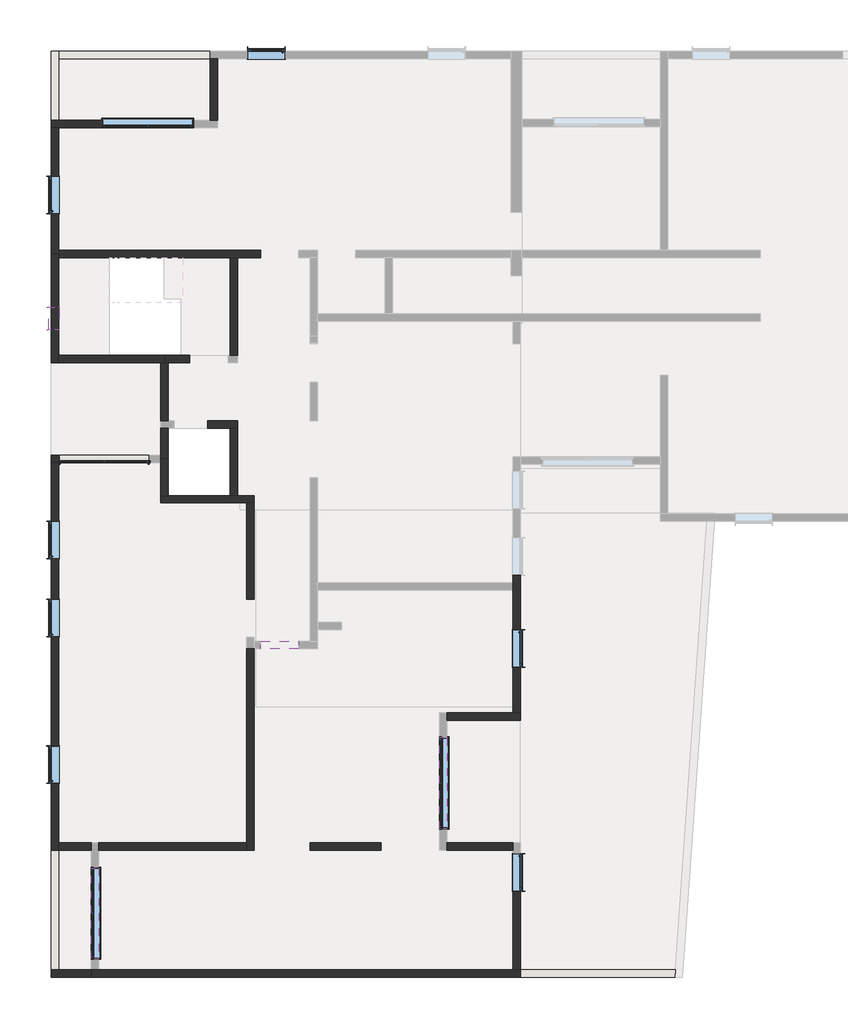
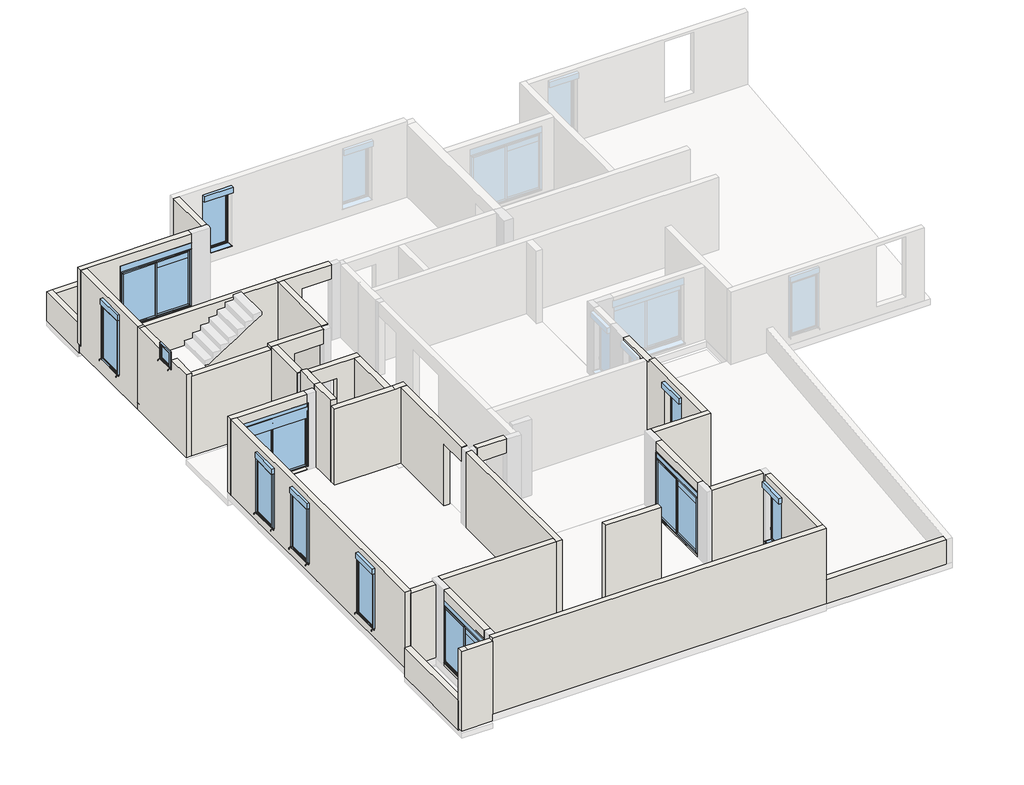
# One storey, part 1 of 3: 37 walls, 12 windows.
"""IFC4 building model written with IfcOpenShell, lengths in millimetres."""

from ifc_helpers import new_model, si_unit, frame, origin, place, context, project, spatial, polyline, outline, extrude, faceted_brep, transform, mapped, element, save
from components import window_b85a0a24, window_200x100_8459d8a5, window_200x100_a15cc3b6, m03_dc1d0546, tunnel_1v_voile_60x60_87597c4a

model = new_model("IFC4")

# Units and contexts
model_context = context("Model", 3, world=origin())
ifc_project = project(units=[si_unit("LENGTHUNIT", "METRE", prefix="MILLI")], contexts=[model_context])

# Site, building, storey
site = spatial("IfcSite", under=ifc_project)
building = spatial("IfcBuilding", under=site)
storey = spatial("IfcBuildingStorey", under=building, Name="03-Plateau 3", Elevation=4400.0)

# Walls
placement = place(None, origin())
element("IfcWall", 1, ObjectType="Voile Banché 20 cm", at=placement, inside=storey, context=model_context, shape_type="Brep", body=[
    faceted_brep([(-2977.0447796, 10679.8622276, 3690.0), (-2977.0447796, 9129.8622276, 3690.0), (-2977.0447796, 9129.8622276, 3760.0), (-2977.0447796, 10679.8622276, 3760.0), (-2777.0447796, 10679.8622276, 3690.0), (-2777.0447796, 10679.8622276, 3760.0), (-2777.0447796, 9129.8622276, 3760.0), (-2777.0447796, 9129.8622276, 3690.0), (-2877.0447796, 10679.8622276, 3690.0)], [[[0, 1, 2, 3]], [[4, 5, 6, 7]], [[1, 0, 8, 4, 7]], [[2, 1, 7, 6]], [[0, 3, 5, 4, 8]], [[3, 2, 6, 5]]]),
])
element("IfcWall", 2, ObjectType="Voile Banché 20 cm", at=placement, inside=storey, context=model_context, shape_type="Brep", body=[
    faceted_brep([(-6107.0447796, 13579.8622276, 3760.0), (-6107.0447796, 10679.8622276, 3760.0), (-6107.0447796, 10679.8622276, 6590.0), (-6107.0447796, 10679.8622276, 6770.0), (-6107.0447796, 11554.8622276, 6770.0), (-6107.0447796, 11554.8622276, 6480.0), (-6107.0447796, 12154.8622276, 6480.0), (-6107.0447796, 12154.8622276, 6770.0), (-6107.0447796, 13479.8622276, 6770.0), (-6107.0447796, 13579.8622276, 6770.0), (-5907.0447796, 10679.8622276, 3760.0), (-5907.0447796, 10879.8622276, 3760.0), (-5907.0447796, 13579.8622276, 3760.0), (-5907.0447796, 13579.8622276, 6770.0), (-5907.0447796, 13479.8622276, 6770.0), (-5907.0447796, 12154.8622276, 6770.0), (-5907.0447796, 12154.8622276, 6480.0), (-5907.0447796, 11554.8622276, 6480.0), (-5907.0447796, 11554.8622276, 6770.0), (-5907.0447796, 10679.8622276, 6770.0), (-5907.0447796, 10679.8622276, 6660.0), (-5907.0447796, 10679.8622276, 6590.0)], [[[0, 1, 2, 3, 4, 5, 6, 7, 8, 9]], [[10, 11, 12, 13, 14, 15, 16, 17, 18, 19, 20, 21]], [[1, 0, 12, 11, 10]], [[3, 19, 18, 4]], [[14, 8, 7, 15]], [[9, 8, 14, 13]], [[3, 2, 1, 10, 21, 20, 19]], [[6, 16, 15, 7]], [[17, 5, 4, 18]], [[16, 6, 5, 17]], [[12, 0, 9, 13]]]),
])
element("IfcWall", 3, ObjectType="Voile Banché 20 cm", at=placement, inside=storey, context=model_context, shape_type="Brep", body=[
    faceted_brep([(-5907.0447796, 10679.8622276, 3760.0), (-3077.0447796, 10679.8622276, 3760.0), (-3077.0447796, 10679.8622276, 4010.0), (-3077.0447796, 10679.8622276, 6660.0), (-3177.0447796, 10679.8622276, 6660.0), (-5907.0447796, 10679.8622276, 6660.0), (-5907.0447796, 10879.8622276, 3760.0), (-5907.0447796, 10879.8622276, 6660.0), (-3177.0447796, 10879.8622276, 6660.0), (-3077.0447796, 10879.8622276, 6660.0), (-3077.0447796, 10879.8622276, 4010.0), (-3077.0447796, 10879.8622276, 3760.0)], [[[0, 1, 2, 3, 4, 5]], [[6, 7, 8, 9, 10, 11]], [[1, 0, 6, 11]], [[3, 2, 1, 11, 10, 9]], [[4, 3, 9, 8]], [[5, 4, 8, 7]], [[0, 5, 7, 6]]]),
])
element("IfcWall", 4, ObjectType="Voile Banché 20 cm", at=placement, inside=storey, context=model_context, shape_type="Brep", body=[
    faceted_brep([(-1377.0447796, 10679.8622276, 6770.0), (-2977.0447796, 10679.8622276, 6770.0), (-3177.0447796, 10679.8622276, 6770.0), (-3177.0447796, 10679.8622276, 6660.0), (-3077.0447796, 10679.8622276, 6660.0), (-3077.0447796, 10679.8622276, 4010.0), (-2977.0447796, 10679.8622276, 4010.0), (-2397.0447796, 10679.8622276, 4010.0), (-2397.0447796, 10679.8622276, 6250.0), (-1377.0447796, 10679.8622276, 6250.0), (-1377.0447796, 10679.8622276, 6740.0), (-3177.0447796, 10879.8622276, 6770.0), (-1377.0447796, 10879.8622276, 6770.0), (-1377.0447796, 10879.8622276, 6740.0), (-1377.0447796, 10879.8622276, 6250.0), (-2397.0447796, 10879.8622276, 6250.0), (-2397.0447796, 10879.8622276, 4010.0), (-3077.0447796, 10879.8622276, 4010.0), (-3077.0447796, 10879.8622276, 6660.0), (-3177.0447796, 10879.8622276, 6660.0), (-3177.0447796, 10779.8622276, 6660.0)], [[[0, 1, 2, 3, 4, 5, 6, 7, 8, 9, 10]], [[11, 12, 13, 14, 15, 16, 17, 18, 19]], [[5, 17, 16, 7, 6]], [[12, 0, 10, 9, 14, 13]], [[2, 1, 0, 12, 11]], [[8, 15, 14, 9]], [[15, 8, 7, 16]], [[5, 4, 18, 17]], [[3, 20, 19, 18, 4]], [[3, 2, 11, 19, 20]]]),
])
element("IfcWall", 5, ObjectType="Voile Banché 20 cm", at=placement, inside=storey, context=model_context, shape_type="Brep", body=[
    faceted_brep([(-3177.0447796, 10679.8622276, 6770.0), (-3177.0447796, 10679.8622276, 6660.0), (-3177.0447796, 10679.8622276, 4010.0), (-3177.0447796, 9129.8622276, 4010.0), (-3177.0447796, 9129.8622276, 6740.0), (-3177.0447796, 9129.8622276, 6770.0), (-2977.0447796, 10679.8622276, 4010.0), (-2977.0447796, 10679.8622276, 6770.0), (-2977.0447796, 9129.8622276, 6770.0), (-2977.0447796, 9129.8622276, 4010.0), (-3077.0447796, 10679.8622276, 4010.0)], [[[0, 1, 2, 3, 4, 5]], [[6, 7, 8, 9]], [[3, 2, 10, 6, 9]], [[5, 4, 3, 9, 8]], [[0, 5, 8, 7]], [[0, 7, 6, 10, 2, 1]]]),
])
element("IfcWall", 6, ObjectType="Voile Banché 20 cm", at=placement, inside=storey, context=model_context, shape_type="Brep", body=[
    faceted_brep([(-1127.0447796, 8929.8622276, 4010.0), (-1127.0447796, 8929.8622276, 6770.0), (-1327.0447796, 8929.8622276, 6770.0), (-2817.0447796, 8929.8622276, 6770.0), (-2817.0447796, 8929.8622276, 6740.0), (-2817.0447796, 8929.8622276, 6250.0), (-1917.0447796, 8929.8622276, 6250.0), (-1917.0447796, 8929.8622276, 4010.0), (-1327.0447796, 8929.8622276, 4010.0), (-1127.0447796, 9129.8622276, 6770.0), (-1127.0447796, 9129.8622276, 4010.0), (-1917.0447796, 9129.8622276, 4010.0), (-1917.0447796, 9129.8622276, 6250.0), (-2817.0447796, 9129.8622276, 6250.0), (-2817.0447796, 9129.8622276, 6740.0), (-2817.0447796, 9129.8622276, 6770.0)], [[[0, 1, 2, 3, 4, 5, 6, 7, 8]], [[9, 10, 11, 12, 13, 14, 15]], [[10, 0, 8, 7, 11]], [[3, 2, 1, 9, 15]], [[3, 15, 14, 13, 5, 4]], [[1, 0, 10, 9]], [[12, 6, 5, 13]], [[6, 12, 11, 7]]]),
])
element("IfcWall", 7, ObjectType="Voile Banché 20 cm", at=placement, inside=storey, context=model_context, shape_type="SweptSolid", body=[
    extrude(outline(polyline([(-1327.0447796, 7129.8622276), (-1327.0447796, 8929.8622276), (-1127.0447796, 8929.8622276), (-1127.0447796, 7129.8622276), (-1327.0447796, 7129.8622276)])), frame((0.0, 0.0, 4010.0), z_axis=(0.0, 0.0, 1.0), x_axis=(1.0, 0.0, 0.0)), (0.0, 0.0, 1.0), 2760.0),
])
element("IfcWall", 8, ObjectType="Voile Banché 20 cm", at=placement, inside=storey, context=model_context, shape_type="Brep", body=[
    faceted_brep([(-687.0447796, 7129.8622276, 4010.0), (-1127.0447796, 7129.8622276, 4010.0), (-1327.0447796, 7129.8622276, 4010.0), (-2977.0447796, 7129.8622276, 4010.0), (-3177.0447796, 7129.8622276, 4010.0), (-3177.0447796, 7129.8622276, 6770.0), (-1327.0447796, 7129.8622276, 6770.0), (-1127.0447796, 7129.8622276, 6770.0), (-1072.0447796, 7129.8622276, 6770.0), (-687.0447796, 7129.8622276, 6770.0), (-687.0447796, 6929.8622276, 4010.0), (-687.0447796, 6929.8622276, 6770.0), (-887.0447796, 6929.8622276, 6770.0), (-1072.0447796, 6929.8622276, 6770.0), (-3177.0447796, 6929.8622276, 6770.0), (-3177.0447796, 6929.8622276, 4010.0), (-887.0447796, 6929.8622276, 4010.0)], [[[0, 1, 2, 3, 4, 5, 6, 7, 8, 9]], [[10, 11, 12, 13, 14, 15, 16]], [[4, 3, 2, 1, 0, 10, 16, 15]], [[5, 4, 15, 14]], [[0, 9, 11, 10]], [[9, 8, 13, 12, 11]], [[8, 7, 6, 5, 14, 13]]]),
])
element("IfcWall", 9, ObjectType="Voile Banché 20 cm", at=placement, inside=storey, context=model_context, shape_type="Brep", body=[
    faceted_brep([(-2977.0447796, 7129.8622276, 4010.0), (-2977.0447796, 8109.8622276, 4010.0), (-2977.0447796, 8109.8622276, 6970.0), (-2977.0447796, 7129.8622276, 6970.0), (-2977.0447796, 7129.8622276, 6770.0), (-3177.0447796, 8109.8622276, 4010.0), (-3177.0447796, 8009.8622276, 4010.0), (-3177.0447796, 7129.8622276, 4010.0), (-3177.0447796, 7129.8622276, 6770.0), (-3177.0447796, 7129.8622276, 6970.0), (-3177.0447796, 8109.8622276, 6970.0), (-3177.0447796, 8109.8622276, 6770.0)], [[[0, 1, 2, 3, 4]], [[5, 6, 7, 8, 9, 10, 11]], [[1, 0, 7, 6, 5]], [[2, 1, 5, 11, 10]], [[3, 2, 10, 9]], [[3, 9, 8, 7, 0, 4]]]),
])
element("IfcWall", 10, ObjectType="Voile Banché 20 cm", at=placement, inside=storey, context=model_context, shape_type="Brep", body=[
    faceted_brep([(-2977.0447796, 8109.8622276, 4010.0), (-2977.0447796, 8929.8622276, 4010.0), (-2977.0447796, 8929.8622276, 6970.0), (-2977.0447796, 8109.8622276, 6970.0), (-3177.0447796, 8109.8622276, 4010.0), (-3177.0447796, 8109.8622276, 6970.0), (-3177.0447796, 8929.8622276, 6970.0), (-3177.0447796, 8929.8622276, 6740.0), (-3177.0447796, 8929.8622276, 4010.0), (-3177.0447796, 8209.8622276, 4010.0)], [[[0, 1, 2, 3]], [[4, 5, 6, 7, 8, 9]], [[1, 0, 4, 9, 8]], [[2, 1, 8, 7, 6]], [[3, 2, 6, 5]], [[0, 3, 5, 4]]]),
])
element("IfcWall", 11, ObjectType="Voile Banché 20 cm", at=placement, inside=storey, context=model_context, shape_type="Brep", body=[
    faceted_brep([(-6107.0447796, 8009.8622276, 4010.0), (-6107.0447796, -2340.1377724, 4010.0), (-6107.0447796, -2340.1377724, 4750.0), (-6107.0447796, -2340.1377724, 6590.0), (-6107.0447796, -2340.1377724, 6770.0), (-6107.0447796, 8009.8622276, 6770.0), (-6107.0447796, 8009.8622276, 4022.7706813), (-6107.0447796, -560.1377724, 6550.0), (-6107.0447796, -560.1377724, 4350.0), (-6107.0447796, 439.8622276, 4350.0), (-6107.0447796, 439.8622276, 6550.0), (-6107.0447796, 5439.8622276, 6550.0), (-6107.0447796, 5439.8622276, 4350.0), (-6107.0447796, 6439.8622276, 4350.0), (-6107.0447796, 6439.8622276, 6550.0), (-6107.0447796, 3359.8622276, 6550.0), (-6107.0447796, 3359.8622276, 4350.0), (-6107.0447796, 4359.8622276, 4350.0), (-6107.0447796, 4359.8622276, 6550.0), (-5907.0447796, -2340.1377724, 4010.0), (-5907.0447796, -2140.1377724, 4010.0), (-5907.0447796, 8009.8622276, 4010.0), (-5907.0447796, 8009.8622276, 6770.0), (-5907.0447796, -2340.1377724, 6770.0), (-5907.0447796, -2340.1377724, 6660.0), (-5907.0447796, -2340.1377724, 6590.0), (-5907.0447796, -2340.1377724, 4750.0), (-5907.0447796, -560.1377724, 4350.0), (-5907.0447796, -560.1377724, 6550.0), (-5907.0447796, 439.8622276, 6550.0), (-5907.0447796, 439.8622276, 4350.0), (-5907.0447796, 5439.8622276, 4350.0), (-5907.0447796, 5439.8622276, 6550.0), (-5907.0447796, 6439.8622276, 6550.0), (-5907.0447796, 6439.8622276, 4350.0), (-5907.0447796, 3359.8622276, 4350.0), (-5907.0447796, 3359.8622276, 6550.0), (-5907.0447796, 4359.8622276, 6550.0), (-5907.0447796, 4359.8622276, 4350.0)], [[[0, 1, 2, 3, 4, 5, 6], [7, 8, 9, 10], [11, 12, 13, 14], [15, 16, 17, 18]], [[19, 20, 21, 22, 23, 24, 25, 26], [27, 28, 29, 30], [31, 32, 33, 34], [35, 36, 37, 38]], [[1, 0, 21, 20, 19]], [[1, 19, 26, 25, 24, 23, 4, 3, 2]], [[5, 4, 23, 22]], [[0, 6, 5, 22, 21]], [[27, 8, 7, 28]], [[28, 7, 10, 29]], [[29, 10, 9, 30]], [[8, 27, 30, 9]], [[31, 12, 11, 32]], [[32, 11, 14, 33]], [[33, 14, 13, 34]], [[12, 31, 34, 13]], [[35, 16, 15, 36]], [[36, 15, 18, 37]], [[37, 18, 17, 38]], [[16, 35, 38, 17]]]),
])
element("IfcWall", 12, ObjectType="Voile Banché 20 cm", at=placement, inside=storey, context=model_context, shape_type="Brep", body=[
    faceted_brep([(-5037.0447796, -5740.1377724, 4010.0), (6432.9552204, -5740.1377724, 4010.0), (6432.9552204, -5740.1377724, 4890.0), (6432.9552204, -5740.1377724, 6770.0), (-5037.0447796, -5740.1377724, 6770.0), (-5037.0447796, -5740.1377724, 6660.0), (-5037.0447796, -5540.1377724, 4010.0), (-5037.0447796, -5540.1377724, 6660.0), (-5037.0447796, -5540.1377724, 6770.0), (-4837.0447796, -5540.1377724, 6770.0), (6232.9552204, -5540.1377724, 6770.0), (6432.9552204, -5540.1377724, 6770.0), (6432.9552204, -5540.1377724, 4890.0), (6432.9552204, -5540.1377724, 4010.0), (6232.9552204, -5540.1377724, 4010.0), (-4837.0447796, -5540.1377724, 4010.0)], [[[0, 1, 2, 3, 4, 5]], [[6, 7, 8, 9, 10, 11, 12, 13, 14, 15]], [[1, 0, 6, 15, 14, 13]], [[0, 5, 4, 8, 7, 6]], [[1, 13, 12, 11, 3, 2]], [[4, 3, 11, 10, 9, 8]]]),
])
element("IfcWall", 13, ObjectType="Voile Banché 20 cm", at=placement, inside=storey, context=model_context, shape_type="Brep", body=[
    faceted_brep([(-887.0447796, 3039.8622276, 4010.0), (-887.0447796, -2140.1377724, 4010.0), (-887.0447796, -2340.1377724, 4010.0), (-887.0447796, -2340.1377724, 6770.0), (-887.0447796, -2140.1377724, 6770.0), (-887.0447796, 3039.8622276, 6770.0), (-887.0447796, 3039.8622276, 6740.0), (-687.0447796, 3039.8622276, 4010.0), (-687.0447796, 3039.8622276, 6740.0), (-687.0447796, 3039.8622276, 6770.0), (-687.0447796, -2340.1377724, 6770.0), (-687.0447796, -2340.1377724, 4010.0)], [[[0, 1, 2, 3, 4, 5, 6]], [[7, 8, 9, 10, 11]], [[2, 1, 0, 7, 11]], [[0, 6, 5, 9, 8, 7]], [[3, 2, 11, 10]], [[5, 4, 3, 10, 9]]]),
])
element("IfcWall", 14, ObjectType="Voile Banché 20 cm", at=placement, inside=storey, context=model_context, shape_type="Brep", body=[
    faceted_brep([(-887.0447796, 3339.8622276, 6770.0), (-887.0447796, 6929.8622276, 6770.0), (-887.0447796, 6929.8622276, 4010.0), (-887.0447796, 4359.8622276, 4010.0), (-887.0447796, 4359.8622276, 6250.0), (-887.0447796, 3339.8622276, 6250.0), (-887.0447796, 3339.8622276, 6740.0), (-687.0447796, 6929.8622276, 6770.0), (-687.0447796, 3339.8622276, 6770.0), (-687.0447796, 3339.8622276, 6740.0), (-687.0447796, 3339.8622276, 6250.0), (-687.0447796, 4359.8622276, 6250.0), (-687.0447796, 4359.8622276, 4010.0), (-687.0447796, 6929.8622276, 4010.0)], [[[0, 1, 2, 3, 4, 5, 6]], [[7, 8, 9, 10, 11, 12, 13]], [[2, 13, 12, 3]], [[8, 0, 6, 5, 10, 9]], [[1, 0, 8, 7]], [[2, 1, 7, 13]], [[4, 11, 10, 5]], [[11, 4, 3, 12]]]),
])
element("IfcWall", 15, ObjectType="Voile Banché 20 cm", at=placement, inside=storey, context=model_context, shape_type="Brep", body=[
    faceted_brep([(-512.0447796, 3039.8622276, 6250.0), (507.9552204, 3039.8622276, 6250.0), (507.9552204, 3039.8622276, 6740.0), (507.9552204, 3039.8622276, 6770.0), (-512.0447796, 3039.8622276, 6770.0), (-512.0447796, 3039.8622276, 6740.0), (-512.0447796, 3239.8622276, 6250.0), (-512.0447796, 3239.8622276, 6740.0), (-512.0447796, 3239.8622276, 6770.0), (507.9552204, 3239.8622276, 6770.0), (507.9552204, 3239.8622276, 6740.0), (507.9552204, 3239.8622276, 6250.0)], [[[0, 1, 2, 3, 4, 5]], [[6, 7, 8, 9, 10, 11]], [[1, 0, 6, 11]], [[3, 2, 1, 11, 10, 9]], [[4, 3, 9, 8]], [[0, 5, 4, 8, 7, 6]]]),
])
element("IfcWall", 16, ObjectType="Voile Banché 20 cm", at=placement, inside=storey, context=model_context, shape_type="Brep", body=[
    faceted_brep([(-1127.0447796, 10879.8622276, 4010.0), (-1127.0447796, 13479.8622276, 4010.0), (-1127.0447796, 13479.8622276, 6770.0), (-1127.0447796, 10879.8622276, 6770.0), (-1127.0447796, 10879.8622276, 6740.0), (-1327.0447796, 10879.8622276, 4010.0), (-1327.0447796, 10879.8622276, 6770.0), (-1327.0447796, 13479.8622276, 6770.0), (-1327.0447796, 13479.8622276, 4010.0)], [[[0, 1, 2, 3, 4]], [[5, 6, 7, 8]], [[1, 0, 5, 8]], [[3, 2, 7, 6]], [[0, 4, 3, 6, 5]], [[2, 1, 8, 7]]]),
])
element("IfcWall", 17, ObjectType="Voile Banché 20 cm", at=placement, inside=storey, context=model_context, shape_type="Brep", body=[
    faceted_brep([(-6107.0447796, -5740.1377724, 3770.0), (-5037.0447796, -5740.1377724, 3770.0), (-5037.0447796, -5740.1377724, 4010.0), (-5037.0447796, -5740.1377724, 6660.0), (-5907.0447796, -5740.1377724, 6660.0), (-6107.0447796, -5740.1377724, 6660.0), (-6107.0447796, -5540.1377724, 3770.0), (-6107.0447796, -5540.1377724, 4750.0), (-6107.0447796, -5540.1377724, 6660.0), (-5907.0447796, -5540.1377724, 6660.0), (-5037.0447796, -5540.1377724, 6660.0), (-5037.0447796, -5540.1377724, 4010.0), (-5037.0447796, -5540.1377724, 3770.0)], [[[0, 1, 2, 3, 4, 5]], [[6, 7, 8, 9, 10, 11, 12]], [[1, 0, 6, 12]], [[3, 2, 1, 12, 11, 10]], [[0, 5, 8, 7, 6]], [[5, 4, 9, 8]], [[4, 3, 10, 9]]]),
])
element("IfcWall", 18, ObjectType="Voile Banché 20 cm", at=placement, inside=storey, context=model_context, shape_type="SweptSolid", body=[
    extrude(outline(polyline([(2712.9552204, -2340.1377724), (812.9552204, -2340.1377724), (812.9552204, -2140.1377724), (2712.9552204, -2140.1377724), (2712.9552204, -2340.1377724)])), frame((0.0, 0.0, 4010.0), z_axis=(0.0, 0.0, 1.0), x_axis=(1.0, 0.0, 0.0)), (0.0, 0.0, 1.0), 2760.0),
])
element("IfcWall", 19, ObjectType="Voile Banché 20 cm", at=placement, inside=storey, context=model_context, shape_type="Brep", body=[
    faceted_brep([(4478.3552204, -2340.1377724, 4010.0), (6232.9552204, -2340.1377724, 4010.0), (6233.3552204, -2340.1377724, 4010.0), (6233.3552204, -2340.1377724, 6770.0), (6232.9552204, -2340.1377724, 6770.0), (4478.3552204, -2340.1377724, 6770.0), (4478.3552204, -2340.1377724, 4080.0), (4478.3552204, -2140.1377724, 4010.0), (4478.3552204, -2140.1377724, 6770.0), (6233.3552204, -2140.1377724, 6770.0), (6233.3552204, -2140.1377724, 4010.0)], [[[0, 1, 2, 3, 4, 5, 6]], [[7, 8, 9, 10]], [[2, 1, 0, 7, 10]], [[3, 2, 10, 9]], [[0, 6, 5, 8, 7]], [[5, 4, 3, 9, 8]]]),
])
element("IfcWall", 20, ObjectType="Voile Banché 20 cm", at=placement, inside=storey, context=model_context, shape_type="Brep", body=[
    faceted_brep([(4478.3552204, 1129.8622276, 4010.0), (6432.9552204, 1129.8622276, 4010.0), (6432.9552204, 1129.8622276, 6770.0), (4478.3552204, 1129.8622276, 6770.0), (4478.3552204, 1329.8622276, 4010.0), (4478.3552204, 1329.8622276, 4080.0), (4478.3552204, 1329.8622276, 6770.0), (6232.9552204, 1329.8622276, 6770.0), (6432.9552204, 1329.8622276, 6770.0), (6432.9552204, 1329.8622276, 4010.0), (6232.9552204, 1329.8622276, 4010.0)], [[[0, 1, 2, 3]], [[4, 5, 6, 7, 8, 9, 10]], [[1, 0, 4, 10, 9]], [[0, 3, 6, 5, 4]], [[2, 1, 9, 8]], [[3, 2, 8, 7, 6]]]),
])
element("IfcWall", 21, ObjectType="Acrotère BA 20 cm", at=placement, inside=storey, context=model_context, shape_type="Brep", body=[
    faceted_brep([(-5907.0447796, 17049.8622276, 3690.0), (-5907.0447796, 18799.8622276, 3690.0), (-5907.0447796, 18999.8622276, 3690.0), (-5907.0447796, 18999.8622276, 4750.0), (-5907.0447796, 18799.8622276, 4750.0), (-5907.0447796, 17149.8622276, 4750.0), (-5907.0447796, 17149.8622276, 4010.0), (-5907.0447796, 17049.8622276, 4010.0), (-5907.0447796, 17049.8622276, 3760.0), (-6107.0447796, 17049.8622276, 3690.0), (-6107.0447796, 17049.8622276, 3760.0), (-6107.0447796, 17049.8622276, 4010.0), (-6107.0447796, 17149.8622276, 4010.0), (-6107.0447796, 17149.8622276, 4750.0), (-6107.0447796, 18999.8622276, 4750.0), (-6107.0447796, 18999.8622276, 3690.0)], [[[0, 1, 2, 3, 4, 5, 6, 7, 8]], [[9, 10, 11, 12, 13, 14, 15]], [[2, 1, 0, 9, 15]], [[5, 4, 3, 14, 13]], [[3, 2, 15, 14]], [[0, 8, 7, 11, 10, 9]], [[6, 12, 11, 7]], [[6, 5, 13, 12]]]),
])
element("IfcWall", 22, ObjectType="Acrotère BA 20 cm", at=placement, inside=storey, context=model_context, shape_type="Brep", body=[
    faceted_brep([(-5907.0447796, 18799.8622276, 3690.0), (-1857.0447796, 18799.8622276, 3690.0), (-1857.0447796, 18799.8622276, 4010.0), (-1857.0447796, 18799.8622276, 4750.0), (-5907.0447796, 18799.8622276, 4750.0), (-5907.0447796, 18999.8622276, 3690.0), (-5907.0447796, 18999.8622276, 4750.0), (-1857.0447796, 18999.8622276, 4750.0), (-1857.0447796, 18999.8622276, 4010.0), (-1857.0447796, 18999.8622276, 3760.0), (-1857.0447796, 18999.8622276, 3690.0)], [[[0, 1, 2, 3, 4]], [[5, 6, 7, 8, 9, 10]], [[1, 0, 5, 10]], [[4, 3, 7, 6]], [[0, 4, 6, 5]], [[3, 2, 1, 10, 9, 8, 7]]]),
])
element("IfcWall", 23, ObjectType="Acrotère BA 20 cm", at=placement, inside=storey, context=model_context, shape_type="Brep", body=[
    faceted_brep([(-5907.0447796, -5540.1377724, 3690.0), (-5907.0447796, -2340.1377724, 3690.0), (-5907.0447796, -2340.1377724, 4010.0), (-5907.0447796, -2340.1377724, 4750.0), (-5907.0447796, -5540.1377724, 4750.0), (-6107.0447796, -5540.1377724, 3690.0), (-6107.0447796, -5540.1377724, 3770.0), (-6107.0447796, -5540.1377724, 4750.0), (-6107.0447796, -2340.1377724, 4750.0), (-6107.0447796, -2340.1377724, 4010.0), (-6107.0447796, -2340.1377724, 3690.0)], [[[0, 1, 2, 3, 4]], [[5, 6, 7, 8, 9, 10]], [[1, 0, 5, 10]], [[4, 3, 8, 7]], [[3, 2, 1, 10, 9, 8]], [[0, 4, 7, 6, 5]]]),
])
element("IfcWall", 24, ObjectType="Acrotère BA 20 cm", at=placement, inside=storey, context=model_context, shape_type="SweptSolid", body=[
    extrude(outline(polyline([(10566.4383237, -5740.1377724), (6432.9552204, -5740.1377724), (6432.9552204, -5540.1377724), (10580.423686, -5540.1377724), (10566.4383237, -5740.1377724)])), frame((0.0, 0.0, 4010.0), z_axis=(0.0, 0.0, 1.0), x_axis=(1.0, 0.0, 0.0)), (0.0, 0.0, 1.0), 880.0),
])
element("IfcWall", 25, ObjectType="Voile Banché 20 cm", at=placement, inside=storey, context=model_context, shape_type="Brep", body=[
    faceted_brep([(-6107.0447796, 8009.8622276, 4022.7706813), (-3487.0447796, 8009.8622276, 4022.7706813), (-3487.0447796, 8009.8622276, 4050.0), (-5887.0447796, 8009.8622276, 4050.0), (-5887.0447796, 8009.8622276, 4100.0), (-5887.0447796, 8009.8622276, 4150.0), (-5917.0447796, 8009.8622276, 4150.0), (-5917.0447796, 8009.8622276, 6230.0), (-5917.0447796, 8009.8622276, 6450.0), (-3487.0447796, 8009.8622276, 6450.0), (-3487.0447796, 8009.8622276, 6770.0), (-5907.0447796, 8009.8622276, 6770.0), (-6107.0447796, 8009.8622276, 6770.0), (-3487.0447796, 8209.8622276, 4022.7706813), (-5907.0447796, 8209.8622276, 4022.7706813), (-6107.0447796, 8209.8622276, 4022.7706813), (-6107.0447796, 8209.8622276, 4050.0), (-6107.0447796, 8209.8622276, 6770.0), (-3487.0447796, 8209.8622276, 6770.0), (-3487.0447796, 8209.8622276, 6450.0), (-5917.0447796, 8209.8622276, 6450.0), (-5917.0447796, 8209.8622276, 6200.0), (-5887.0447796, 8209.8622276, 6200.0), (-5887.0447796, 8209.8622276, 4050.0), (-3487.0447796, 8209.8622276, 4050.0), (-6107.0447796, 8109.8622276, 4022.7706813), (-5887.0447796, 8059.8622276, 6200.0), (-5917.0447796, 8059.8622276, 6200.0), (-5917.0447796, 8059.8622276, 4150.0), (-5897.0447796, 8059.8622276, 4150.0), (-5887.0447796, 8059.8622276, 4150.0)], [[[0, 1, 2, 3, 4, 5, 6, 7, 8, 9, 10, 11, 12]], [[13, 14, 15, 16, 17, 18, 19, 20, 21, 22, 23, 24]], [[1, 0, 25, 15, 14, 13]], [[1, 13, 24, 2]], [[18, 10, 9, 19]], [[0, 12, 17, 16, 15, 25]], [[12, 11, 10, 18, 17]], [[26, 27, 28, 29, 30]], [[28, 27, 21, 20, 8, 7, 6]], [[29, 28, 6, 5, 30]], [[23, 3, 2, 24]], [[26, 30, 5, 4, 3, 23, 22]], [[8, 20, 19, 9]], [[27, 26, 22, 21]]]),
])
element("IfcWall", 26, ObjectType="Acrotère BA 20 cm", at=placement, inside=storey, context=model_context, shape_type="Brep", body=[
    faceted_brep([(-5037.0447796, -2820.1377724, 4010.0), (-5037.0447796, -5240.1377724, 4010.0), (-5037.0447796, -5240.1377724, 4120.0), (-5037.0447796, -2820.1377724, 4120.0), (-4837.0447796, -5240.1377724, 4010.0), (-4837.0447796, -2820.1377724, 4010.0), (-4837.0447796, -2820.1377724, 4050.0), (-4837.0447796, -5240.1377724, 4050.0), (-4967.0447796, -5240.1377724, 4050.0), (-4967.0447796, -2820.1377724, 4050.0), (-4977.0447796, -5230.1377724, 4050.0), (-4977.0447796, -2830.1377724, 4050.0), (-4977.0447796, -2830.1377724, 4060.0), (-4977.0447796, -5230.1377724, 4060.0), (-4967.0447796, -2830.1377724, 4050.0), (-4967.0447796, -5230.1377724, 4050.0)], [[[0, 1, 2, 3]], [[4, 5, 6, 7]], [[1, 0, 5, 4]], [[1, 4, 7, 8, 2]], [[5, 0, 3, 9, 6]], [[10, 11, 12, 13]], [[12, 11, 14]], [[11, 10, 15, 8, 7, 6, 9, 14]], [[10, 13, 15]], [[13, 12, 14, 9, 3, 2, 8, 15]]]),
    faceted_brep([(-4837.0447796, -2820.1377724, 4105.0695702), (-4837.0447796, -2820.1377724, 6200.0), (-4837.0447796, -2830.1377724, 6200.0), (-4837.0447796, -2830.1377724, 4105.0695702), (-4977.0447796, -2820.1377724, 4119.2643667), (-4977.0447796, -2820.1377724, 4150.0), (-4977.0447796, -2820.1377724, 6200.0), (-4977.0447796, -2830.1377724, 6200.0), (-4977.0447796, -2830.1377724, 4119.2643667)], [[[0, 1, 2, 3]], [[1, 0, 4, 5, 6]], [[2, 7, 8, 3]], [[8, 7, 6, 5, 4]], [[3, 8, 4, 0]], [[7, 2, 1, 6]]]),
    faceted_brep([(-4837.0447796, -5240.1377724, 6200.0), (-4837.0447796, -5240.1377724, 4105.0695702), (-4837.0447796, -5230.1377724, 4105.0695702), (-4837.0447796, -5230.1377724, 6200.0), (-4977.0447796, -5240.1377724, 6200.0), (-4977.0447796, -5240.1377724, 4150.0), (-4977.0447796, -5240.1377724, 4119.2643667), (-4977.0447796, -5230.1377724, 4119.2643667), (-4977.0447796, -5230.1377724, 6200.0)], [[[0, 1, 2, 3]], [[1, 0, 4, 5, 6]], [[7, 8, 3, 2]], [[8, 7, 6, 5, 4]], [[7, 2, 1, 6]], [[3, 8, 4, 0]]]),
])
element("IfcWall", 27, ObjectType="Acrotère BA 20 cm", at=placement, inside=storey, context=model_context, shape_type="Brep", body=[
    faceted_brep([(4278.3552204, 649.8622276, 4080.0), (4278.3552204, -1770.1377724, 4080.0), (4278.3552204, -1770.1377724, 4120.0), (4278.3552204, 649.8622276, 4120.0), (4318.3552204, 649.8622276, 4080.0), (4318.3552204, -1770.1377724, 4080.0)], [[[0, 1, 2, 3]], [[1, 0, 4, 5]], [[2, 1, 5]], [[0, 3, 4]], [[3, 2, 5, 4]]]),
    faceted_brep([(4478.3552204, -1770.1377724, 6200.0), (4478.3552204, -1770.1377724, 4105.0695702), (4478.3552204, -1749.2468255, 4105.0695702), (4478.3552204, -1749.2468255, 6200.0), (4338.3552204, -1770.1377724, 6200.0), (4338.3552204, -1770.1377724, 6210.0), (4328.3552204, -1770.1377724, 6210.0), (4328.3552204, -1770.1377724, 4150.0), (4338.3552204, -1770.1377724, 4150.0), (4338.3552204, -1770.1377724, 4119.2643667), (4328.3552204, -1759.2468255, 6210.0), (4328.3552204, -1759.2468255, 4150.0), (4338.3552204, -1749.2468255, 4119.2643667), (4338.3552204, -1749.2468255, 6200.0), (4338.3552204, -1759.2468255, 4150.0), (4338.3552204, -1759.2468255, 6200.0), (4338.3552204, -1759.2468255, 6210.0)], [[[0, 1, 2, 3]], [[1, 0, 4, 5, 6, 7, 8, 9]], [[10, 11, 7, 6]], [[12, 13, 3, 2]], [[13, 12, 9, 8, 14, 15]], [[11, 10, 16, 15, 14]], [[12, 2, 1, 9]], [[11, 14, 8, 7]], [[16, 10, 6, 5]], [[15, 16, 5, 4]], [[3, 13, 15, 4, 0]]]),
])
element("IfcWall", 28, ObjectType="Poutre voile 20cm", at=placement, inside=storey, context=model_context, shape_type="Brep", body=[
    faceted_brep([(-887.0447796, -2140.1377724, 3510.0), (-1072.0447796, -2140.1377724, 3510.0), (-4837.0447796, -2140.1377724, 3510.0), (-4837.0447796, -2140.1377724, 3760.0), (-1072.0447796, -2140.1377724, 3760.0), (-887.0447796, -2140.1377724, 3760.0), (-4837.0447796, -2340.1377724, 3510.0), (-1072.0447796, -2340.1377724, 3510.0), (-887.0447796, -2340.1377724, 3510.0), (-887.0447796, -2340.1377724, 3760.0), (-1072.0447796, -2340.1377724, 3760.0), (-4837.0447796, -2340.1377724, 3760.0), (-4837.0447796, -2240.1377724, 3510.0), (-4837.0447796, -2240.1377724, 3760.0)], [[[0, 1, 2, 3, 4, 5]], [[6, 7, 8, 9, 10, 11]], [[2, 1, 0, 8, 7, 6, 12]], [[2, 12, 6, 11, 13, 3]], [[5, 4, 3, 13, 11, 10, 9]], [[8, 0, 5, 9]]]),
    faceted_brep([(-4837.0447796, -2140.1377724, 6770.0), (-887.0447796, -2140.1377724, 6770.0), (-887.0447796, -2140.1377724, 4010.0), (-4837.0447796, -2140.1377724, 4010.0), (-887.0447796, -2340.1377724, 6770.0), (-4837.0447796, -2340.1377724, 6770.0), (-4837.0447796, -2340.1377724, 4010.0), (-887.0447796, -2340.1377724, 4010.0)], [[[0, 1, 2, 3]], [[4, 5, 6, 7]], [[5, 0, 3, 6]], [[3, 2, 7, 6]], [[1, 4, 7, 2]], [[1, 0, 5, 4]]]),
])
element("IfcWall", 29, ObjectType="Poutre voile 20cm", at=placement, inside=storey, context=model_context, shape_type="Brep", body=[
    faceted_brep([(-6107.0447796, 16949.8622276, 4010.0), (-5907.0447796, 16949.8622276, 4010.0), (-2297.0447796, 16949.8622276, 4010.0), (-2297.0447796, 16949.8622276, 4120.0), (-4757.0447796, 16949.8622276, 4120.0), (-4757.0447796, 16949.8622276, 4150.0), (-4757.0447796, 16949.8622276, 6230.0), (-4757.0447796, 16949.8622276, 6450.0), (-2297.0447796, 16949.8622276, 6450.0), (-2297.0447796, 16949.8622276, 6770.0), (-5907.0447796, 16949.8622276, 6770.0), (-6107.0447796, 16949.8622276, 6770.0), (-2297.0447796, 17149.8622276, 4010.0), (-5907.0447796, 17149.8622276, 4010.0), (-6107.0447796, 17149.8622276, 4010.0), (-6107.0447796, 17149.8622276, 4750.0), (-6107.0447796, 17149.8622276, 6770.0), (-2297.0447796, 17149.8622276, 6770.0), (-2297.0447796, 17149.8622276, 6450.0), (-4757.0447796, 17149.8622276, 6450.0), (-4757.0447796, 17149.8622276, 6200.0), (-4727.0447796, 17149.8622276, 6200.0), (-4727.0447796, 17149.8622276, 4105.0695702), (-4757.0447796, 17149.8622276, 4105.0695702), (-4757.0447796, 17149.8622276, 4050.0), (-2297.0447796, 17149.8622276, 4050.0), (-6107.0447796, 17049.8622276, 4010.0), (-2297.0447796, 17019.8622276, 4050.0), (-4737.0447796, 16999.8622276, 4150.0), (-4737.0447796, 16999.8622276, 6210.0), (-4757.0447796, 16999.8622276, 6210.0), (-4757.0447796, 16999.8622276, 4150.0), (-4757.0447796, 17009.8622276, 6210.0), (-4757.0447796, 17009.8622276, 6200.0), (-4757.0447796, 17019.8622276, 4050.0), (-4757.0447796, 17009.8622276, 4119.2643667), (-4757.0447796, 17009.8622276, 4150.0), (-2327.0447796, 17009.8622276, 4050.0), (-4727.0447796, 17009.8622276, 4050.0), (-4727.0447796, 17009.8622276, 4060.0), (-2327.0447796, 17009.8622276, 4060.0), (-4727.0447796, 17019.8622276, 4050.0), (-4727.0447796, 17009.8622276, 6200.0), (-4727.0447796, 17009.8622276, 4119.2643667), (-2327.0447796, 17019.8622276, 4050.0), (-4737.0447796, 17009.8622276, 6200.0), (-4737.0447796, 17009.8622276, 4150.0), (-4737.0447796, 17009.8622276, 6210.0)], [[[0, 1, 2, 3, 4, 5, 6, 7, 8, 9, 10, 11]], [[12, 13, 14, 15, 16, 17, 18, 19, 20, 21, 22, 23, 24, 25]], [[2, 1, 0, 26, 14, 13, 12]], [[2, 12, 25, 27, 3]], [[17, 9, 8, 18]], [[14, 26, 0, 11, 16, 15]], [[11, 10, 9, 17, 16]], [[28, 29, 30, 31]], [[31, 30, 32, 33, 20, 19, 7, 6, 5, 4, 34, 24, 23, 35, 36]], [[37, 38, 39, 40]], [[39, 38, 41]], [[21, 42, 43, 22]], [[38, 37, 44, 27, 25, 24, 34, 41]], [[37, 40, 44]], [[36, 35, 43, 42, 45, 46]], [[29, 28, 46, 45, 47]], [[34, 4, 3, 27, 44, 40, 39, 41]], [[43, 35, 23, 22]], [[28, 31, 36, 46]], [[7, 19, 18, 8]], [[30, 29, 47, 32]], [[33, 32, 47, 45]], [[20, 33, 45, 42, 21]]]),
    faceted_brep([(-2297.0447796, 17149.8622276, 6200.0), (-2297.0447796, 17149.8622276, 4105.0695702), (-2327.0447796, 17149.8622276, 4105.0695702), (-2327.0447796, 17149.8622276, 6200.0), (-2297.0447796, 17009.8622276, 6200.0), (-2297.0447796, 17009.8622276, 6210.0), (-2297.0447796, 16999.8622276, 6210.0), (-2297.0447796, 16999.8622276, 4150.0), (-2297.0447796, 17009.8622276, 4150.0), (-2297.0447796, 17009.8622276, 4119.2643667), (-2317.0447796, 16999.8622276, 6210.0), (-2317.0447796, 16999.8622276, 4150.0), (-2327.0447796, 17009.8622276, 4119.2643667), (-2327.0447796, 17009.8622276, 6200.0), (-2317.0447796, 17009.8622276, 4150.0), (-2317.0447796, 17009.8622276, 6200.0), (-2317.0447796, 17009.8622276, 6210.0)], [[[0, 1, 2, 3]], [[1, 0, 4, 5, 6, 7, 8, 9]], [[10, 11, 7, 6]], [[12, 13, 3, 2]], [[13, 12, 9, 8, 14, 15]], [[11, 10, 16, 15, 14]], [[9, 12, 2, 1]], [[7, 11, 14, 8]], [[10, 6, 5, 16]], [[15, 16, 5, 4]], [[3, 13, 15, 4, 0]]]),
])
element("IfcWall", 30, ObjectType="Poutre voile 20cm", at=placement, inside=storey, context=model_context, shape_type="SweptSolid", body=[
    extrude(outline(polyline([(-1657.0447796, 18799.8622276), (-1657.0447796, 17149.8622276), (-1857.0447796, 17149.8622276), (-1857.0447796, 18799.8622276), (-1657.0447796, 18799.8622276)])), frame((0.0, 0.0, 4010.0), z_axis=(0.0, 0.0, 1.0), x_axis=(1.0, 0.0, 0.0)), (0.0, 0.0, 1.0), 2760.0),
])
element("IfcWall", 31, ObjectType="Poutre voile 20cm", at=placement, inside=storey, context=model_context, shape_type="Brep", body=[
    faceted_brep([(508.9552204, 13479.8622276, 6770.0), (-1127.0447796, 13479.8622276, 6770.0), (-1327.0447796, 13479.8622276, 6770.0), (-5907.0447796, 13479.8622276, 6770.0), (-5907.0447796, 13479.8622276, 4010.0), (-1327.0447796, 13479.8622276, 4010.0), (-1127.0447796, 13479.8622276, 4010.0), (-511.0447796, 13479.8622276, 4010.0), (-511.0447796, 13479.8622276, 6250.0), (508.9552204, 13479.8622276, 6250.0), (-5907.0447796, 13679.8622276, 6770.0), (-1327.0447796, 13679.8622276, 6770.0), (508.9552204, 13679.8622276, 6770.0), (508.9552204, 13679.8622276, 6250.0), (-511.0447796, 13679.8622276, 6250.0), (-511.0447796, 13679.8622276, 4010.0), (-5907.0447796, 13679.8622276, 4010.0), (-5907.0447796, 13579.8622276, 6770.0)], [[[0, 1, 2, 3, 4, 5, 6, 7, 8, 9]], [[10, 11, 12, 13, 14, 15, 16]], [[4, 16, 15, 7, 6, 5]], [[12, 0, 9, 13]], [[4, 3, 17, 10, 16]], [[8, 14, 13, 9]], [[14, 8, 7, 15]], [[2, 1, 0, 12, 11]], [[3, 2, 11, 10, 17]]]),
])
element("IfcWall", 32, ObjectType="Poutre voile 20cm", at=placement, inside=storey, context=model_context, shape_type="SweptSolid", body=[
    extrude(outline(polyline([(-2440.1377724, 4010.0), (-5540.1377724, 4010.0), (-5540.1377724, 6770.0), (-2440.1377724, 6770.0), (-2440.1377724, 6550.0), (-3440.1377724, 6550.0), (-3440.1377724, 4350.0), (-2440.1377724, 4350.0), (-2440.1377724, 4010.0)])), frame((6232.9552204, 0.0, 0.0), z_axis=(1.0, 0.0, 0.0), x_axis=(0.0, 1.0, 0.0)), (0.0, 0.0, 1.0), 200.0),
])
element("IfcWall", 33, ObjectType="Poutre voile 20cm", at=placement, inside=storey, context=model_context, shape_type="SweptSolid", body=[
    extrude(outline(polyline([(-5907.0447796, -2140.1377724), (-5037.0447796, -2140.1377724), (-5037.0447796, -2340.1377724), (-5907.0447796, -2340.1377724), (-5907.0447796, -2140.1377724)])), frame((0.0, 0.0, 4010.0), z_axis=(0.0, 0.0, 1.0), x_axis=(1.0, 0.0, 0.0)), (0.0, 0.0, 1.0), 2650.0),
])
element("IfcWall", 34, ObjectType="Poutre voile 20cm", at=placement, inside=storey, context=model_context, shape_type="Brep", body=[
    faceted_brep([(6432.9552204, 1329.8622276, 4010.0), (6432.9552204, 5999.8622276, 4010.0), (6432.9552204, 5999.8622276, 4080.0), (6432.9552204, 5999.8622276, 4350.0), (6432.9552204, 4999.8622276, 4350.0), (6432.9552204, 4999.8622276, 6550.0), (6432.9552204, 5999.8622276, 6550.0), (6432.9552204, 5999.8622276, 6650.0), (6432.9552204, 4570.830828, 6650.0), (6432.9552204, 4470.830828, 6650.0), (6432.9552204, 4470.830828, 6770.0), (6432.9552204, 1329.8622276, 6770.0), (6432.9552204, 3539.8622276, 6550.0), (6432.9552204, 3539.8622276, 4350.0), (6432.9552204, 2539.8622276, 4350.0), (6432.9552204, 2539.8622276, 6550.0), (6232.9552204, 5999.8622276, 4010.0), (6232.9552204, 4799.8622276, 4010.0), (6232.9552204, 4599.8622276, 4010.0), (6232.9552204, 1329.8622276, 4010.0), (6232.9552204, 1329.8622276, 6770.0), (6232.9552204, 4470.830828, 6770.0), (6232.9552204, 4470.830828, 6650.0), (6232.9552204, 4599.8622276, 6650.0), (6232.9552204, 4799.8622276, 6650.0), (6232.9552204, 5999.8622276, 6650.0), (6232.9552204, 5999.8622276, 6550.0), (6232.9552204, 4999.8622276, 6550.0), (6232.9552204, 4999.8622276, 4350.0), (6232.9552204, 5999.8622276, 4350.0), (6232.9552204, 5999.8622276, 4080.0), (6232.9552204, 3539.8622276, 4350.0), (6232.9552204, 3539.8622276, 6550.0), (6232.9552204, 2539.8622276, 6550.0), (6232.9552204, 2539.8622276, 4350.0)], [[[0, 1, 2, 3, 4, 5, 6, 7, 8, 9, 10, 11], [12, 13, 14, 15]], [[16, 17, 18, 19, 20, 21, 22, 23, 24, 25, 26, 27, 28, 29, 30], [31, 32, 33, 34]], [[1, 0, 19, 18, 17, 16]], [[1, 16, 30, 29, 3, 2]], [[25, 7, 6, 26]], [[0, 11, 20, 19]], [[11, 10, 21, 20]], [[7, 25, 24, 23, 22, 9, 8]], [[5, 27, 26, 6]], [[27, 5, 4, 28]], [[28, 4, 3, 29]], [[31, 13, 12, 32]], [[32, 12, 15, 33]], [[33, 15, 14, 34]], [[13, 31, 34, 14]], [[10, 9, 22, 21]]]),
])
element("IfcWall", 35, ObjectType="Poutre voile 20cm", at=placement, inside=storey, context=model_context, shape_type="SweptSolid", body=[
    extrude(outline(polyline([(-4837.0447796, -2820.1377724), (-4837.0447796, -5240.1377724), (-5037.0447796, -5240.1377724), (-5037.0447796, -2820.1377724), (-4837.0447796, -2820.1377724)])), frame((0.0, 0.0, 6400.0), z_axis=(0.0, 0.0, 1.0), x_axis=(1.0, 0.0, 0.0)), (0.0, 0.0, 1.0), 370.0),
])
element("IfcWall", 36, ObjectType="Poutre voile 20cm", at=placement, inside=storey, context=model_context, shape_type="Brep", body=[
    faceted_brep([(4478.3552204, -1770.1377724, 6400.0), (4478.3552204, 649.8622276, 6400.0), (4478.3552204, 677.5337635, 6400.0), (4478.3552204, 677.5337635, 6770.0), (4478.3552204, -1770.1377724, 6770.0), (4278.3552204, -1770.1377724, 6400.0), (4278.3552204, -1770.1377724, 6770.0), (4278.3552204, 677.5337635, 6770.0), (4278.3552204, 677.5337635, 6400.0), (4278.3552204, 649.8622276, 6400.0)], [[[0, 1, 2, 3, 4]], [[5, 6, 7, 8, 9]], [[2, 1, 0, 5, 9, 8]], [[3, 2, 8, 7]], [[0, 4, 6, 5]], [[4, 3, 7, 6]]]),
])
element("IfcWall", 37, ObjectType="Voile", at=placement, inside=storey, context=model_context, shape_type="Brep", body=[
    faceted_brep([(-6107.0447796, 17049.8622276, 3760.0), (-6107.0447796, 13579.8622276, 3760.0), (-6107.0447796, 13579.8622276, 6770.0), (-6107.0447796, 13679.8622276, 6770.0), (-6107.0447796, 16949.8622276, 6770.0), (-6107.0447796, 16949.8622276, 4010.0), (-6107.0447796, 17049.8622276, 4010.0), (-6107.0447796, 14659.8622276, 6550.0), (-6107.0447796, 14659.8622276, 4350.0), (-6107.0447796, 15659.8622276, 4350.0), (-6107.0447796, 15659.8622276, 6550.0), (-5907.0447796, 13579.8622276, 3760.0), (-5907.0447796, 17049.8622276, 3760.0), (-5907.0447796, 17049.8622276, 4010.0), (-5907.0447796, 16949.8622276, 4010.0), (-5907.0447796, 16949.8622276, 6770.0), (-5907.0447796, 13679.8622276, 6770.0), (-5907.0447796, 13579.8622276, 6770.0), (-5907.0447796, 14659.8622276, 4350.0), (-5907.0447796, 14659.8622276, 6550.0), (-5907.0447796, 15659.8622276, 6550.0), (-5907.0447796, 15659.8622276, 4350.0)], [[[0, 1, 2, 3, 4, 5, 6], [7, 8, 9, 10]], [[11, 12, 13, 14, 15, 16, 17], [18, 19, 20, 21]], [[1, 0, 12, 11]], [[12, 0, 6, 13]], [[14, 13, 6, 5]], [[17, 16, 15, 4, 3, 2]], [[4, 15, 14, 5]], [[18, 8, 7, 19]], [[19, 7, 10, 20]], [[20, 10, 9, 21]], [[8, 18, 21, 9]], [[1, 11, 17, 2]]]),
])

# Windows
window_shape = window_b85a0a24(model_context)
element("IfcWindow", 38, ObjectType="Rect 2 couliss+CVR+App : M03 Appuis 7 cm", at=placement, inside=storey, context=model_context, shape_type="MappedRepresentation", body=[
    mapped(window_shape, transform((-3527.0447796, 17049.8622276, 4150.0), x_axis=(1.0, 0.0, 0.0), y_axis=(0.0, 1.0, 0.0), z_axis=(0.0, 0.0, 1.0))),
])
element("IfcWindow", 39, ObjectType="Rect 2 couliss+CVR+App : M03 Appuis 7 cm", at=placement, inside=storey, context=model_context, shape_type="MappedRepresentation", body=[
    mapped(window_shape, transform((-4937.0447796, -4030.1377724, 4150.0), x_axis=(0.0, -1.0, 0.0), y_axis=(1.0, 0.0, 0.0), z_axis=(0.0, 0.0, 1.0))),
])
element("IfcWindow", 40, ObjectType="Rect 2 couliss+CVR+App : M03 Appuis 7 cm", at=placement, inside=storey, context=model_context, shape_type="MappedRepresentation", body=[
    mapped(window_shape, transform((4378.3552204, -549.2468255, 4150.0), x_axis=(0.0, -1.0, 0.0), y_axis=(1.0, 0.0, 0.0), z_axis=(0.0, 0.0, 1.0))),
])
window_200x100_shape = window_200x100_8459d8a5(model_context)
element("IfcWindow", 41, ObjectType="Tunnel 1V+VR+ Voile : 200x100", at=placement, inside=storey, context=model_context, shape_type="MappedRepresentation", body=[
    mapped(window_200x100_shape, transform((-6007.0447796, 5939.8622276, 3550.0), x_axis=(0.0, 1.0, 0.0), y_axis=(-1.0, 0.0, 0.0), z_axis=(0.0, 0.0, 1.0))),
])
element("IfcWindow", 42, ObjectType="Tunnel 1V+VR+ Voile : 200x100", at=placement, inside=storey, context=model_context, shape_type="MappedRepresentation", body=[
    mapped(window_200x100_shape, transform((-6007.0447796, 3859.8622276, 3550.0), x_axis=(0.0, 1.0, 0.0), y_axis=(-1.0, 0.0, 0.0), z_axis=(0.0, 0.0, 1.0))),
])
element("IfcWindow", 43, ObjectType="Tunnel 1V+VR+ Voile : 200x100", at=placement, inside=storey, context=model_context, shape_type="MappedRepresentation", body=[
    mapped(window_200x100_shape, transform((-6007.0447796, -60.1377724, 3550.0), x_axis=(0.0, 1.0, 0.0), y_axis=(-1.0, 0.0, 0.0), z_axis=(0.0, 0.0, 1.0))),
])
element("IfcWindow", 44, ObjectType="Tunnel 1V+VR+ Voile : 200x100", at=placement, inside=storey, context=model_context, shape_type="MappedRepresentation", body=[
    mapped(window_200x100_shape, transform((-6007.0447796, 15159.8622276, 3550.0), x_axis=(0.0, 1.0, 0.0), y_axis=(-1.0, 0.0, 0.0), z_axis=(0.0, 0.0, 1.0))),
])
window_200x100_2_shape = window_200x100_a15cc3b6(model_context)
element("IfcWindow", 45, ObjectType="Tunnel 1V+VR+ Voile : 200x100", at=placement, inside=storey, context=model_context, shape_type="MappedRepresentation", body=[
    mapped(window_200x100_2_shape, transform((-357.0447796, 18899.8622276, 3550.0), x_axis=(-1.0, 0.0, 0.0), y_axis=(0.0, -1.0, 0.0), z_axis=(0.0, 0.0, 1.0))),
])
element("IfcWindow", 46, ObjectType="Tunnel 1V+VR+ Voile : 200x100", at=placement, inside=storey, context=model_context, shape_type="MappedRepresentation", body=[
    mapped(window_200x100_shape, transform((6332.9552204, -2940.1377724, 3550.0), x_axis=(0.0, -1.0, 0.0), y_axis=(1.0, 0.0, 0.0), z_axis=(0.0, 0.0, 1.0))),
])
element("IfcWindow", 47, ObjectType="Tunnel 1V+VR+ Voile : 200x100", at=placement, inside=storey, context=model_context, shape_type="MappedRepresentation", body=[
    mapped(window_200x100_shape, transform((6332.9552204, 3039.8622276, 3550.0), x_axis=(0.0, -1.0, 0.0), y_axis=(1.0, 0.0, 0.0), z_axis=(0.0, 0.0, 1.0))),
])
m03_shape = m03_dc1d0546(model_context)
element("IfcWindow", 48, ObjectType="Rect 2 couliss+CVR+App : M03", at=placement, inside=storey, context=model_context, shape_type="MappedRepresentation", body=[
    mapped(m03_shape, transform((-4687.0447796, 8109.8622276, 4150.0), x_axis=(-1.0, 0.0, 0.0), y_axis=(0.0, -1.0, 0.0), z_axis=(0.0, 0.0, 1.0))),
])
tunnel_1v_voile_60x60_shape = tunnel_1v_voile_60x60_87597c4a(model_context)
element("IfcWindow", 49, ObjectType="Tunnel 1V+Voile : 60x60", at=placement, inside=storey, context=model_context, shape_type="MappedRepresentation", body=[
    mapped(tunnel_1v_voile_60x60_shape, transform((-6007.0447796, 11854.8622276, 5680.0), x_axis=(0.0, -1.0, 0.0), y_axis=(1.0, 0.0, 0.0), z_axis=(0.0, 0.0, 1.0))),
])

save(model, "model.ifc")
